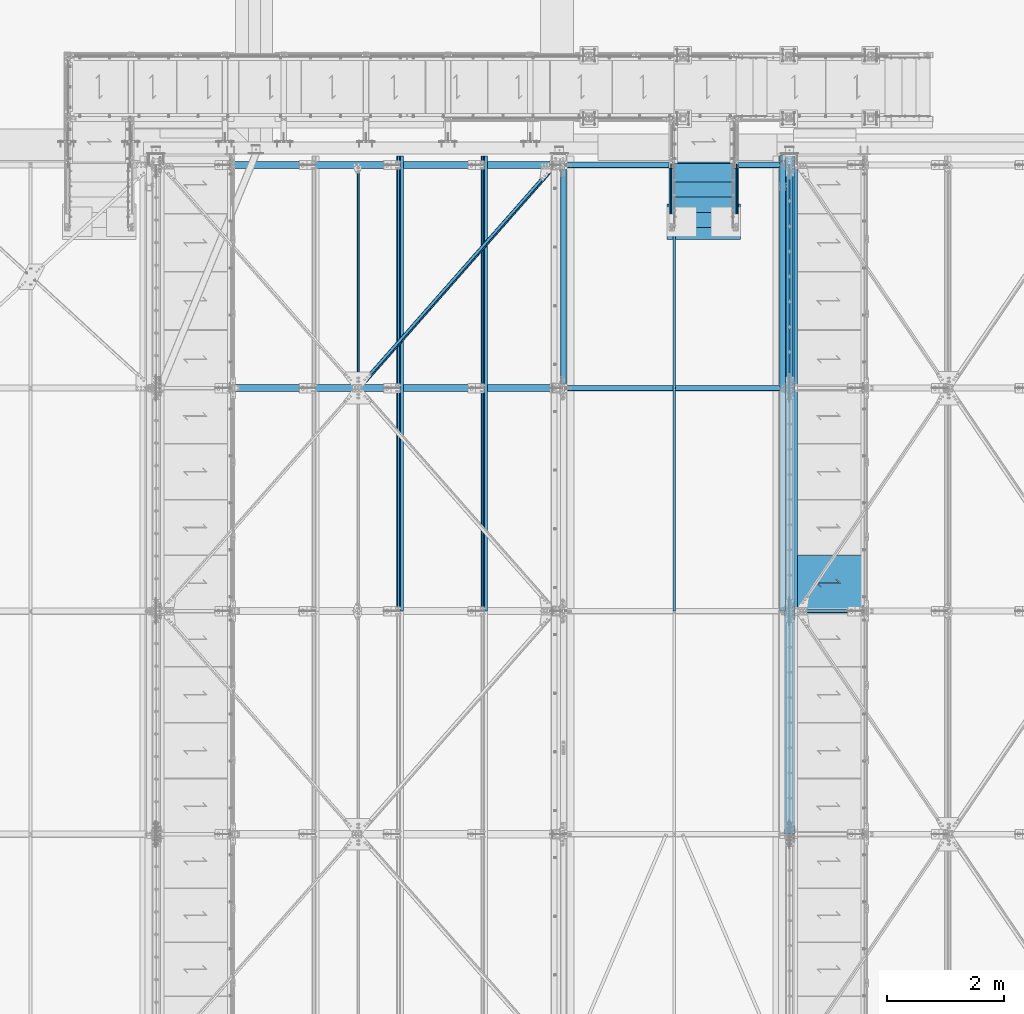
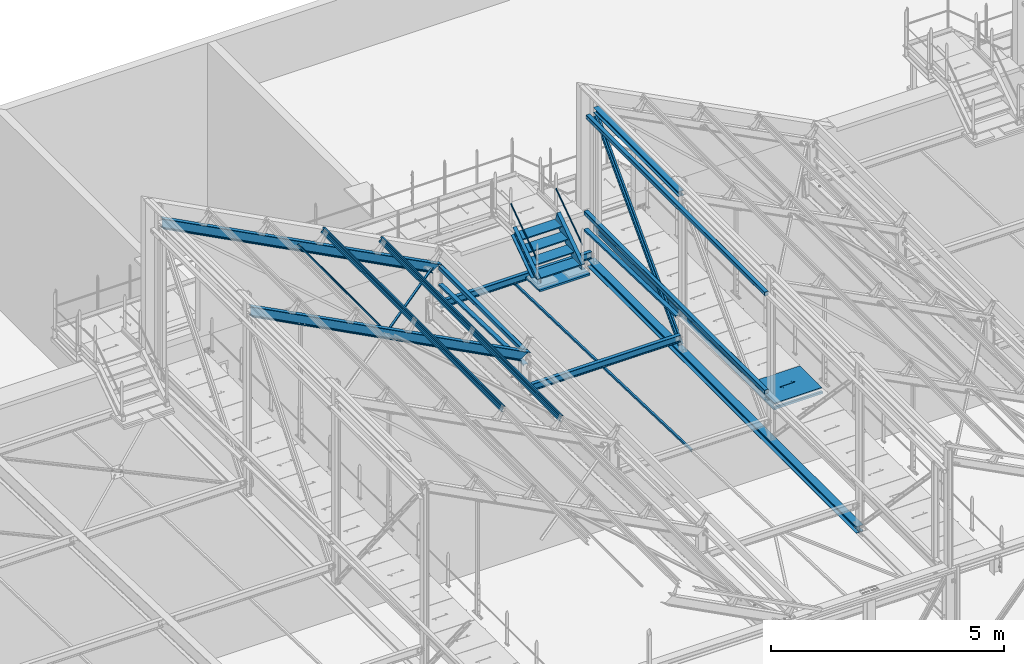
# One storey, part 50 of 362: 22 beams, 8 members, 30 elements without a shape of their own.
"""IFC2X3 building model written with IfcOpenShell, lengths in millimetres."""

import ifcopenshell
import ifcopenshell.guid

model = None  # the IFC model being written
_history = None  # IfcOwnerHistory: only IFC2X3 demands one
_inside = {}  # id of a spatial element -> (the spatial element, [elements in it])
_under = {}  # id of a project, library or spatial element -> (it, [spatial elements below it])
_declared = {}  # id of a project -> (the project, [libraries it declares])
_typed = {}  # id of a type object -> (the type object, [elements of that type])
_made_of = {}  # id of a material, layer set ... -> (it, [elements and type objects made of it])


def new_model(schema):
    """Start an empty IFC model of exactly this schema.

    Asked for "IFC4X3", IfcOpenShell would pick the latest addendum, in which some entities
    have other attributes; the version numbers below select the first issue.
    IFC2X3 requires an IfcOwnerHistory on every rooted entity: one is made here for all.
    """
    global model, _history
    if schema == "IFC4X3":
        model = ifcopenshell.file(schema_version=(4, 3, 0, 0))
    else:
        model = ifcopenshell.file(schema=schema)
    _inside.clear()
    _under.clear()
    _declared.clear()
    _typed.clear()
    _made_of.clear()
    _history = None
    if model.schema == "IFC2X3":
        org = make("IfcOrganization", Name="unknown")
        user = make(
            "IfcPersonAndOrganization",
            ThePerson=make("IfcPerson", FamilyName="unknown"),
            TheOrganization=org,
        )
        app = make(
            "IfcApplication",
            ApplicationDeveloper=org,
            Version="unknown",
            ApplicationFullName="unknown",
            ApplicationIdentifier="unknown",
        )
        _history = make(
            "IfcOwnerHistory",
            OwningUser=user,
            OwningApplication=app,
            ChangeAction="ADDED",
            CreationDate=0,
        )
    return model


def make(cls, **values):
    """One entity of the class cls with the attributes given. An attribute that is None is left unset."""
    return model.create_entity(
        cls, **{name: value for name, value in values.items() if value is not None}
    )


def rooted(cls, **values):
    """An entity with a GlobalId (a new one), such as an element, a storey or a relation."""
    return make(cls, GlobalId=ifcopenshell.guid.new(), OwnerHistory=_history, **values)


def si_unit(unit_type, name, prefix=None):
    """IfcSIUnit, for example si_unit("LENGTHUNIT", "METRE", prefix="MILLI")."""
    return make("IfcSIUnit", UnitType=unit_type, Prefix=prefix, Name=name)


def assignment(units):
    """IfcUnitAssignment: the units of a project."""
    return None if units is None else make("IfcUnitAssignment", Units=units)


def point(xyz):
    """IfcCartesianPoint."""
    return None if xyz is None else make("IfcCartesianPoint", Coordinates=xyz)


def direction(xyz):
    """IfcDirection."""
    return None if xyz is None else make("IfcDirection", DirectionRatios=xyz)


def frame(location, z_axis=None, x_axis=None):
    """IfcAxis2Placement3D, a coordinate frame: its origin and axes. An axis left out is left unset."""
    return make(
        "IfcAxis2Placement3D",
        Location=point(location),
        Axis=direction(z_axis),
        RefDirection=direction(x_axis),
    )


def frame_2d(location, x_axis=None):
    """IfcAxis2Placement2D, a coordinate frame in the plane: its origin and x axis."""
    return make(
        "IfcAxis2Placement2D", Location=point(location), RefDirection=direction(x_axis)
    )


def origin_with_axes():
    """The frame at (0, 0, 0) with the z axis (0, 0, 1) and the x axis (1, 0, 0) written out."""
    return frame((0.0, 0.0, 0.0), z_axis=(0.0, 0.0, 1.0), x_axis=(1.0, 0.0, 0.0))


def origin_2d_with_axis():
    """The frame at (0, 0) in the plane with the x axis (1, 0) written out."""
    return frame_2d((0.0, 0.0), x_axis=(1.0, 0.0))


def place(relative_to, where):
    """IfcLocalPlacement: puts the frame where relative to a parent placement (None: the world)."""
    return make(
        "IfcLocalPlacement", PlacementRelTo=relative_to, RelativePlacement=where
    )


def context(
    kind, dimensions, precision=None, world=None, true_north=None, identifier=None
):
    """IfcGeometricRepresentationContext, for example the 3D "Model" context."""
    return make(
        "IfcGeometricRepresentationContext",
        ContextIdentifier=identifier,
        ContextType=kind,
        CoordinateSpaceDimension=dimensions,
        Precision=precision,
        WorldCoordinateSystem=world,
        TrueNorth=true_north,
    )


def subcontext(parent, identifier, kind, view, scale=None):
    """IfcGeometricRepresentationSubContext, for example "Body" below "Model"."""
    return make(
        "IfcGeometricRepresentationSubContext",
        ContextIdentifier=identifier,
        ContextType=kind,
        ParentContext=parent,
        TargetScale=scale,
        TargetView=view,
    )


def project(units=None, contexts=None):
    """IfcProject with its units and contexts."""
    return rooted(
        "IfcProject",
        Name="project",
        RepresentationContexts=contexts,
        UnitsInContext=assignment(units),
    )


def spatial(cls, under=None, at=None, **own):
    """A site, building, storey or space (cls), placed at a placement, below another one or the project."""
    s = rooted(cls, ObjectPlacement=at, **own)
    if under is not None:
        _under.setdefault(under.id(), (under, []))[1].append(s)
    return s


def polyline(points):
    """IfcPolyline through the points."""
    return make("IfcPolyline", Points=[point(p) for p in points])


def profile(cls, at=None, kind="AREA", **sizes):
    """A parametric profile (cls). Its sizes go by their IFC names, for example OverallWidth=200.0."""
    return make(cls, ProfileType=kind, Position=at, **sizes)


def rectangle(**sizes):
    """IfcRectangleProfileDef."""
    return profile("IfcRectangleProfileDef", **sizes)


def hollow_rectangle(**sizes):
    """IfcRectangleHollowProfileDef."""
    return profile("IfcRectangleHollowProfileDef", **sizes)


def hollow_circle(**sizes):
    """IfcCircleHollowProfileDef."""
    return profile("IfcCircleHollowProfileDef", **sizes)


def i_section(**sizes):
    """IfcIShapeProfileDef."""
    return profile("IfcIShapeProfileDef", **sizes)


def l_section(**sizes):
    """IfcLShapeProfileDef."""
    return profile("IfcLShapeProfileDef", **sizes)


def u_section(**sizes):
    """IfcUShapeProfileDef."""
    return profile("IfcUShapeProfileDef", **sizes)


def outline(outer, holes=None, kind="AREA"):
    """IfcArbitraryClosedProfileDef: a profile drawn as a closed curve; with holes, ...WithVoids."""
    if holes is None:
        return make("IfcArbitraryClosedProfileDef", ProfileType=kind, OuterCurve=outer)
    return make(
        "IfcArbitraryProfileDefWithVoids",
        ProfileType=kind,
        OuterCurve=outer,
        InnerCurves=holes,
    )


def extrude(swept, where, along, depth):
    """IfcExtrudedAreaSolid: the profile swept, set in the frame where, extruded along a direction by depth."""
    return make(
        "IfcExtrudedAreaSolid",
        SweptArea=swept,
        Position=where,
        ExtrudedDirection=direction(along),
        Depth=depth,
    )


def boolean(op, a, b):
    """IfcBooleanResult of two solids."""
    return make("IfcBooleanResult", Operator=op, FirstOperand=a, SecondOperand=b)


def clip(a, b, op="DIFFERENCE"):
    """IfcBooleanClippingResult: the solid a cut by the half space b."""
    return make(
        "IfcBooleanClippingResult", Operator=op, FirstOperand=a, SecondOperand=b
    )


def halfspace(plane, agree):
    """IfcHalfSpaceSolid: all space on one side of the plane z = 0 of the frame plane."""
    return make(
        "IfcHalfSpaceSolid",
        BaseSurface=make("IfcPlane", Position=plane),
        AgreementFlag=agree,
    )


def shape(context_of_items, identifier, shape_type, items):
    """IfcShapeRepresentation: the items that make up one representation, for example the "Body"."""
    return make(
        "IfcShapeRepresentation",
        ContextOfItems=context_of_items,
        RepresentationIdentifier=identifier,
        RepresentationType=shape_type,
        Items=items,
    )


def material(Name=None, Category=None):
    """IfcMaterial."""
    return make("IfcMaterial", Name=Name, Category=Category)


def made_of(thing, what):
    """Note that an element or type object is made of a material, layer set ...; save() writes the relation."""
    if what is not None:
        _made_of.setdefault(what.id(), (what, []))[1].append(thing)
    return thing


def type_object(cls, material=None, **own):
    """A type object (cls), such as IfcWallType, which elements share."""
    return made_of(rooted(cls, **own), material)


def element(
    cls,
    number,
    at=None,
    inside=None,
    cuts=None,
    type_object=None,
    material=None,
    context=None,
    identifier="Body",
    shape_type=None,
    held_by="IfcProductDefinitionShape",
    body=None,
    shapes=None,
    **own,
):
    """One element of the class cls, such as IfcWall. Its Tag is "e" and its number.

    at: its placement. inside: the storey or other place that contains it. cuts: it is an
    opening in that element (IfcRelVoidsElement). A single representation is given by context,
    identifier, shape_type and body (its items); several are given by shapes. held_by: the class
    of the entity that holds the representations. save() writes the other relations.
    """
    e = rooted(cls, Tag="e%d" % number, ObjectPlacement=at, **own)
    if body is not None:
        shapes = [shape(context, identifier, shape_type, body)]
    if shapes is not None:
        e.Representation = make(held_by, Representations=shapes)
    if inside is not None:
        _inside.setdefault(inside.id(), (inside, []))[1].append(e)
    if cuts is not None:
        rooted(
            "IfcRelVoidsElement", RelatingBuildingElement=cuts, RelatedOpeningElement=e
        )
    if type_object is not None:
        _typed.setdefault(type_object.id(), (type_object, []))[1].append(e)
    return made_of(e, material)


def aggregate(whole, parts):
    """IfcRelAggregates: a whole, such as a stair, and the parts it consists of."""
    return rooted("IfcRelAggregates", RelatingObject=whole, RelatedObjects=parts)


def save(model, path):
    """Write the relations noted so far, then the file.

    IfcRelAggregates (storeys below a building ...), IfcRelContainedInSpatialStructure (elements
    in a storey), IfcRelDefinesByType, IfcRelAssociatesMaterial and IfcRelDeclares: one each for
    every whole, place, type object, material and project.
    """
    for whole, parts in _under.values():
        aggregate(whole, parts)
    for where, things in _inside.values():
        rooted(
            "IfcRelContainedInSpatialStructure",
            RelatedElements=things,
            RelatingStructure=where,
        )
    for kind, things in _typed.values():
        rooted("IfcRelDefinesByType", RelatedObjects=things, RelatingType=kind)
    for what, things in _made_of.values():
        rooted("IfcRelAssociatesMaterial", RelatedObjects=things, RelatingMaterial=what)
    for by, libraries in _declared.values():
        rooted("IfcRelDeclares", RelatingContext=by, RelatedDefinitions=libraries)
    model.write(path)


model = new_model("IFC2X3")

# Units and contexts
model_context = context("Model", 3, precision=1e-05, world=origin_with_axes())
body_context = subcontext(model_context, "Body", "Model", "MODEL_VIEW")
ifc_project = project(units=[si_unit("LENGTHUNIT", "METRE", prefix="MILLI"), si_unit("AREAUNIT", "SQUARE_METRE"), si_unit("VOLUMEUNIT", "CUBIC_METRE"), si_unit("MASSUNIT", "GRAM", prefix="KILO"), si_unit("TIMEUNIT", "SECOND"), si_unit("PLANEANGLEUNIT", "RADIAN"), si_unit("SOLIDANGLEUNIT", "STERADIAN"), si_unit("THERMODYNAMICTEMPERATUREUNIT", "DEGREE_CELSIUS"), si_unit("LUMINOUSINTENSITYUNIT", "LUMEN")], contexts=[model_context])

# Site, building, storey
site_placement = place(None, origin_with_axes())
site = spatial("IfcSite", under=ifc_project, at=site_placement, Name="Undefined", CompositionType="ELEMENT")
building_placement = place(site_placement, origin_with_axes())
building = spatial("IfcBuilding", under=site, at=building_placement, Name="Undefined", CompositionType="ELEMENT")
storey_placement = place(building_placement, origin_with_axes())
storey = spatial("IfcBuildingStorey", under=building, at=storey_placement, Name="Undefined", CompositionType="ELEMENT", Elevation=0.0)

# Assembly, member
assembly_1_placement = place(storey_placement, origin_with_axes())
assembly_1 = element("IfcElementAssembly", 1, at=assembly_1_placement, inside=storey, Name="MAIN COURANTE", AssemblyPlace="NOTDEFINED", PredefinedType="NOTDEFINED")
ifc_material_1 = material(Name="Undefined/S235-E24")
member_type_1 = type_object("IfcMemberType", Name="TUBE-21.3*2", PredefinedType="NOTDEFINED")
member_1_placement = place(assembly_1_placement, frame((22569.9936634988, 14144.9998536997, 8651.13839395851), z_axis=(0.999999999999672, -6.66011674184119e-07, -4.61008081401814e-07), x_axis=(0.0, 0.822192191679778, 0.56920997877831)))
member_1 = element("IfcMember", 2, at=member_1_placement, type_object=member_type_1, material=ifc_material_1, Name="LISSE", ObjectType="TUBE-21.3*2", context=body_context, shape_type="Clipping", body=[
    clip(clip(extrude(hollow_circle(Radius=10.64999962, WallThickness=2.0, at=origin_2d_with_axis()), frame((1395.35433691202, -1.13686837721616e-12, 7.38694435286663e-20), z_axis=(-1.0, 0.0, 0.0), x_axis=(0.0, -1.0, 0.0)), (0.0, 0.0, 1.0), 1404.17), halfspace(frame((1387.78549896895, 10.5802584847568, -0.00112410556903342), z_axis=(-0.822192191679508, 0.569209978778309, 6.66011673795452e-07), x_axis=(-0.569209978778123, -0.822192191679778, 4.61008086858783e-07)), True)), halfspace(frame((16.4615054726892, 14.9935154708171, -1.33328576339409e-05), z_axis=(0.822192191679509, -0.569209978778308, -6.66011673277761e-07), x_axis=(0.0, 0.0, -1.0)), True)),
])
aggregate(assembly_1, [member_1])

assembly_2_placement = place(storey_placement, origin_with_axes())
assembly_2 = element("IfcElementAssembly", 3, at=assembly_2_placement, inside=storey, Name="MAIN COURANTE", AssemblyPlace="NOTDEFINED", PredefinedType="NOTDEFINED")
member_2_placement = place(assembly_2_placement, frame((21449.9863365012, 14144.9998536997, 8651.13839395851), z_axis=(-0.999999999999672, -6.66011674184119e-07, -4.61008081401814e-07), x_axis=(0.0, 0.822192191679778, 0.56920997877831)))
member_2 = element("IfcMember", 4, at=member_2_placement, type_object=member_type_1, material=ifc_material_1, Name="LISSE", ObjectType="TUBE-21.3*2", context=body_context, shape_type="Clipping", body=[
    clip(clip(extrude(hollow_circle(Radius=10.64999962, WallThickness=2.0, at=origin_2d_with_axis()), frame((1395.35433691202, -1.13686837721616e-12, 7.38694435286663e-20), z_axis=(-1.0, 0.0, 0.0), x_axis=(0.0, -1.0, 0.0)), (0.0, 0.0, 1.0), 1404.17), halfspace(frame((1387.78549896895, -10.5802584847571, -0.00112410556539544), z_axis=(-0.822192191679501, -0.569209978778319, 6.66011673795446e-07), x_axis=(0.0, 0.0, -1.0)), True)), halfspace(frame((16.4615054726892, -14.9935154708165, -1.33328503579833e-05), z_axis=(0.822192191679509, 0.569209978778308, -6.6601167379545e-07), x_axis=(-0.569209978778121, 0.822192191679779, 4.61008079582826e-07)), True)),
])
aggregate(assembly_2, [member_2])

# Assembly, beam
assembly_3_placement = place(storey_placement, origin_with_axes())
assembly_3 = element("IfcElementAssembly", 5, at=assembly_3_placement, inside=storey, AssemblyPlace="NOTDEFINED", PredefinedType="NOTDEFINED")
beam_type_1 = type_object("IfcBeamType", Name="L50*5", PredefinedType="NOTDEFINED")
beam_1_placement = place(assembly_3_placement, frame((21507.0000126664, 7601.38524277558, 7606.01559960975), z_axis=(1.0, 0.0, 0.0), x_axis=(3.14103090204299e-11, 0.999506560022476, -0.0314107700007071)))
beam_1 = element("IfcBeam", 6, at=beam_1_placement, type_object=beam_type_1, material=ifc_material_1, Name="LIERNE", ObjectType="L50*5", context=body_context, shape_type="SweptSolid", body=[
    extrude(l_section(Depth=50.0, Width=50.0, Thickness=5.0, FilletRadius=7.0, EdgeRadius=3.5, at=origin_2d_with_axis()), frame((7644.25203515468, 5.30426538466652e-14, 0.0), z_axis=(-1.0, 0.0, 0.0), x_axis=(0.0, -1.0, 0.0)), (0.0, 0.0, 1.0), 7644.25),
])
aggregate(assembly_3, [beam_1])

# Assembly, member
assembly_4_placement = place(storey_placement, origin_with_axes())
assembly_4 = element("IfcElementAssembly", 7, at=assembly_4_placement, inside=storey, AssemblyPlace="NOTDEFINED", PredefinedType="NOTDEFINED")
ifc_material_2 = material(Name="Undefined/S275-E28")
member_type_2 = type_object("IfcMemberType", Name="UPN260", PredefinedType="NOTDEFINED")
member_3_placement = place(assembly_4_placement, frame((22554.9957050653, 15220.1081967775, 8803.11488296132), z_axis=(-2.38199999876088e-06, 0.569209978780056, -0.822192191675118), x_axis=(-1.71699999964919e-06, -0.822192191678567, -0.569209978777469)))
member_3 = element("IfcMember", 8, at=member_3_placement, type_object=member_type_2, material=ifc_material_2, Name="LIMON", ObjectType="UPN260", context=body_context, shape_type="Clipping", body=[
    clip(clip(clip(extrude(u_section(Depth=260.0, FlangeWidth=90.0, WebThickness=10.0, FlangeThickness=14.0, FilletRadius=14.0, EdgeRadius=7.0, FlangeSlope=0.0798299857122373, at=origin_2d_with_axis()), frame((1532.05974941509, 3.24426271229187e-19, 1.50656932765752e-12), z_axis=(-1.0, 0.0, 0.0), x_axis=(0.0, -1.0, 0.0)), (0.0, 0.0, 1.0), 1652.65), halfspace(frame((1475.10561376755, -44.9999999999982, -130.0), z_axis=(0.594754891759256, -2.93590080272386e-06, 0.803907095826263), x_axis=(-0.803907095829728, -3.97667463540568e-10, 0.594754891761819)), False)), halfspace(frame((1280.85769771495, 106.407624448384, -129.999853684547), z_axis=(-0.822192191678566, 5.58458236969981e-08, 0.569209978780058), x_axis=(0.569209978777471, -2.93579533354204e-06, 0.822192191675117)), True)), halfspace(frame((81.2187427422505, 545.001446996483, 130.001191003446), z_axis=(0.954513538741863, -9.28664575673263e-07, -0.298167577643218), x_axis=(1.71699999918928e-06, 0.999999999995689, 2.38199999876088e-06)), True)),
])
aggregate(assembly_4, [member_3])

assembly_5_placement = place(storey_placement, origin_with_axes())
assembly_5 = element("IfcElementAssembly", 9, at=assembly_5_placement, inside=storey, AssemblyPlace="NOTDEFINED", PredefinedType="NOTDEFINED")
member_4_placement = place(assembly_5_placement, frame((21465.0064946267, 14166.9970857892, 8074.0379599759), z_axis=(2.38199999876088e-06, 0.569209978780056, -0.822192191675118), x_axis=(-1.7169999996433e-06, 0.822192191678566, 0.56920997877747)))
member_4 = element("IfcMember", 10, at=member_4_placement, type_object=member_type_2, material=ifc_material_2, Name="LIMON", ObjectType="UPN260", context=body_context, shape_type="Clipping", body=[
    clip(clip(clip(extrude(u_section(Depth=260.0, FlangeWidth=90.0, WebThickness=10.0, FlangeThickness=14.0, FilletRadius=14.0, EdgeRadius=7.0, FlangeSlope=0.0798299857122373, at=origin_2d_with_axis()), frame((1401.45085429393, -1.81898940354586e-12, 2.27373675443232e-13), z_axis=(-1.0, 0.0, 0.0), x_axis=(0.0, -1.0, 0.0)), (0.0, 0.0, 1.0), 1652.65), halfspace(frame((-194.248465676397, 44.9999999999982, -130.0), z_axis=(-0.594754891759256, -2.93590079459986e-06, 0.803907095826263), x_axis=(0.803907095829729, -3.97667463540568e-10, 0.594754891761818)), False)), halfspace(frame((1199.63884956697, 544.98906444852, 130.001190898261), z_axis=(-0.954513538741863, -9.28664579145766e-07, -0.298167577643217), x_axis=(1.71700000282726e-06, -0.999999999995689, -2.38199999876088e-06)), True)), halfspace(frame((-0.000105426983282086, 106.407623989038, -129.999853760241), z_axis=(0.822192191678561, 5.58458236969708e-08, 0.569209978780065), x_axis=(1.71700000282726e-06, -0.999999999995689, -2.38199999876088e-06)), True)),
])
aggregate(assembly_5, [member_4])

# Assembly, beam
assembly_6_placement = place(storey_placement, origin_with_axes())
assembly_6 = element("IfcElementAssembly", 11, at=assembly_6_placement, inside=storey, Name="Steel Assembly", AssemblyPlace="NOTDEFINED", PredefinedType="NOTDEFINED")
ifc_material_3 = material(Name="MISCELLANEOUS/POLYURETHANE")
beam_type_2 = type_object("IfcBeamType", Name="PL50*1250", PredefinedType="NOTDEFINED")
beam_2_placement = place(assembly_6_placement, frame((22009.9947340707, 14532.1706378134, 7968.49328384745), z_axis=(-1.0, 0.0, 0.0), x_axis=(0.0, -0.999506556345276, 0.031410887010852)))
beam_2 = element("IfcBeam", 12, at=beam_2_placement, type_object=beam_type_2, material=ifc_material_3, Name="STYRODUR", ObjectType="PL50*1250", context=body_context, shape_type="SweptSolid", body=[
    extrude(rectangle(XDim=50.0, YDim=1250.0, at=origin_2d_with_axis()), frame((600.000000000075, -4.16333634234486e-15, 0.0), z_axis=(-1.0, 0.0, 0.0), x_axis=(0.0, -1.0, 0.0)), (0.0, 0.0, 1.0), 600.0),
])
aggregate(assembly_6, [beam_2])

assembly_7_placement = place(storey_placement, origin_with_axes())
assembly_7 = element("IfcElementAssembly", 13, at=assembly_7_placement, inside=storey, Name="MARCHE", AssemblyPlace="NOTDEFINED", PredefinedType="NOTDEFINED")
beam_type_3 = type_object("IfcBeamType", Name="PL30*994", PredefinedType="NOTDEFINED")
beam_3_placement = place(assembly_7_placement, frame((22009.9938089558, 14444.9997910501, 8145.0000000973), z_axis=(-1.0, 0.0, 0.0), x_axis=(0.0, -1.0, 0.0)))
beam_3 = element("IfcBeam", 14, at=beam_3_placement, type_object=beam_type_3, material=ifc_material_1, Name="MARCHE", ObjectType="PL30*994", context=body_context, shape_type="SweptSolid", body=[
    extrude(rectangle(XDim=30.0, YDim=994.0, at=origin_2d_with_axis()), frame((310.0, 0.0, 0.0), z_axis=(-1.0, 0.0, 0.0), x_axis=(0.0, -1.0, 0.0)), (0.0, 0.0, 1.0), 310.0),
])
aggregate(assembly_7, [beam_3])

assembly_8_placement = place(storey_placement, origin_with_axes())
assembly_8 = element("IfcElementAssembly", 15, at=assembly_8_placement, inside=storey, Name="MARCHE", AssemblyPlace="NOTDEFINED", PredefinedType="NOTDEFINED")
beam_4_placement = place(assembly_8_placement, frame((22009.9938089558, 14704.9997910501, 8325.00000007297), z_axis=(-1.0, 0.0, 0.0), x_axis=(0.0, -1.0, 0.0)))
beam_4 = element("IfcBeam", 16, at=beam_4_placement, type_object=beam_type_3, material=ifc_material_1, Name="MARCHE", ObjectType="PL30*994", context=body_context, shape_type="SweptSolid", body=[
    extrude(rectangle(XDim=30.0, YDim=994.0, at=origin_2d_with_axis()), frame((310.0, 0.0, 0.0), z_axis=(-1.0, 0.0, 0.0), x_axis=(0.0, -1.0, 0.0)), (0.0, 0.0, 1.0), 310.0),
])
aggregate(assembly_8, [beam_4])

assembly_9_placement = place(storey_placement, origin_with_axes())
assembly_9 = element("IfcElementAssembly", 17, at=assembly_9_placement, inside=storey, Name="MARCHE", AssemblyPlace="NOTDEFINED", PredefinedType="NOTDEFINED")
beam_5_placement = place(assembly_9_placement, frame((22009.9938089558, 14964.9997910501, 8505.00000004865), z_axis=(-1.0, 0.0, 0.0), x_axis=(0.0, -1.0, 0.0)))
beam_5 = element("IfcBeam", 18, at=beam_5_placement, type_object=beam_type_3, material=ifc_material_1, Name="MARCHE", ObjectType="PL30*994", context=body_context, shape_type="SweptSolid", body=[
    extrude(rectangle(XDim=30.0, YDim=994.0, at=origin_2d_with_axis()), frame((310.0, 0.0, 0.0), z_axis=(-1.0, 0.0, 0.0), x_axis=(0.0, -1.0, 0.0)), (0.0, 0.0, 1.0), 310.0),
])
aggregate(assembly_9, [beam_5])

assembly_10_placement = place(storey_placement, origin_with_axes())
assembly_10 = element("IfcElementAssembly", 19, at=assembly_10_placement, inside=storey, Name="MARCHE", AssemblyPlace="NOTDEFINED", PredefinedType="NOTDEFINED")
beam_6_placement = place(assembly_10_placement, frame((22009.9938089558, 15224.9997910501, 8685.0), z_axis=(-1.0, 0.0, 0.0), x_axis=(0.0, -1.0, 0.0)))
beam_6 = element("IfcBeam", 20, at=beam_6_placement, type_object=beam_type_3, material=ifc_material_1, Name="MARCHE", ObjectType="PL30*994", context=body_context, shape_type="SweptSolid", body=[
    extrude(rectangle(XDim=30.0, YDim=994.0, at=origin_2d_with_axis()), frame((310.0, 0.0, 0.0), z_axis=(-1.0, 0.0, 0.0), x_axis=(0.0, -1.0, 0.0)), (0.0, 0.0, 1.0), 310.0),
])
aggregate(assembly_10, [beam_6])

assembly_11_placement = place(storey_placement, origin_with_axes())
assembly_11 = element("IfcElementAssembly", 21, at=assembly_11_placement, inside=storey, AssemblyPlace="NOTDEFINED", PredefinedType="NOTDEFINED")
beam_type_4 = type_object("IfcBeamType", Name="L60*6", PredefinedType="NOTDEFINED")
beam_7_placement = place(assembly_11_placement, frame((16130.7913108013, 11397.8852377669, 10299.8650291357), z_axis=(-0.628485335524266, 0.704921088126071, 0.328774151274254), x_axis=(0.624617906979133, 0.7092857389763, -0.326750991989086)))
beam_7 = element("IfcBeam", 22, at=beam_7_placement, type_object=beam_type_4, material=ifc_material_1, Name="STABILITE CVT", ObjectType="L60*6", context=body_context, shape_type="Clipping", body=[
    clip(clip(extrude(l_section(Depth=60.0, Width=60.0, Thickness=6.0, FilletRadius=8.0, EdgeRadius=4.0, at=origin_2d_with_axis()), frame((5278.55482785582, 0.0, -3.15847707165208e-13), z_axis=(-1.0, 0.0, 0.0), x_axis=(0.0, -1.0, 0.0)), (0.0, 0.0, 1.0), 5199.61), halfspace(frame((5188.72425075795, 30.0000249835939, 30.0000008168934), z_axis=(-1.0, 0.0, 0.0), x_axis=(0.0, -1.0, 0.0)), True)), halfspace(frame((168.778198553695, 30.0000021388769, -29.999999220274), z_axis=(1.0, 0.0, 0.0), x_axis=(0.0, -1.0, 0.0)), True)),
])
aggregate(assembly_11, [beam_7])

assembly_12_placement = place(storey_placement, origin_with_axes())
assembly_12 = element("IfcElementAssembly", 23, at=assembly_12_placement, inside=storey, Name="LISSE", AssemblyPlace="NOTDEFINED", PredefinedType="NOTDEFINED")
beam_type_5 = type_object("IfcBeamType", Name="UPF-100*50*4", PredefinedType="NOTDEFINED")
beam_8_placement = place(assembly_12_placement, frame((23353.5001162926, 11402.9585391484, 8171.89575101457), z_axis=(1.0, 0.0, 0.0), x_axis=(0.0, 0.99950644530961, -0.0314144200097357)))
beam_8 = element("IfcBeam", 24, at=beam_8_placement, type_object=beam_type_5, material=ifc_material_1, Name="LISSE CONTREBARDAGE", ObjectType="UPF-100*50*4", context=body_context, shape_type="Clipping", body=[
    clip(extrude(u_section(Depth=100.0, FlangeWidth=50.0, WebThickness=4.0, FlangeThickness=4.0, at=origin_2d_with_axis()), frame((3989.01014791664, 0.0, 0.0), z_axis=(-1.0, 0.0, 0.0), x_axis=(0.0, -1.0, 0.0)), (0.0, 0.0, 1.0), 3989.01), halfspace(frame((3959.78106204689, -24.99999999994, -50.0), z_axis=(0.999506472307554, 0.0314135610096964, 0.0), x_axis=(0.0, 0.0, 1.0)), False)),
])
aggregate(assembly_12, [beam_8])

assembly_13_placement = place(storey_placement, origin_with_axes())
assembly_13 = element("IfcElementAssembly", 25, at=assembly_13_placement, inside=storey, Name="LISSE", AssemblyPlace="NOTDEFINED", PredefinedType="NOTDEFINED")
beam_9_placement = place(assembly_13_placement, frame((19620.0000000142, 11400.0, 8171.98873515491), z_axis=(1.0, 0.0, 0.0), x_axis=(0.0, 0.99950644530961, -0.0314144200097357)))
beam_9 = element("IfcBeam", 26, at=beam_9_placement, type_object=beam_type_5, material=ifc_material_1, Name="LISSE CONTREBARDAGE", ObjectType="UPF-100*50*4", context=body_context, shape_type="Clipping", body=[
    clip(clip(extrude(u_section(Depth=100.0, FlangeWidth=50.0, WebThickness=4.0, FlangeThickness=4.0, at=origin_2d_with_axis()), frame((3738.43140425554, 0.0, 0.0), z_axis=(-1.0, 0.0, 0.0), x_axis=(0.0, -1.0, 0.0)), (0.0, 0.0, 1.0), 3674.99), halfspace(frame((3734.02168286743, 89.8070816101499, 49.9999999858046), z_axis=(-0.999506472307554, -0.0314135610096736, 0.0), x_axis=(0.0, 0.0, 1.0)), True)), halfspace(frame((63.1144992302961, 61.0134432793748, 49.9999999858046), z_axis=(-0.999506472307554, -0.0314135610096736, 0.0), x_axis=(0.0, 0.0, 1.0)), False)),
])
aggregate(assembly_13, [beam_9])

assembly_14_placement = place(storey_placement, origin_with_axes())
assembly_14 = element("IfcElementAssembly", 27, at=assembly_14_placement, inside=storey, Name="LISSE", AssemblyPlace="NOTDEFINED", PredefinedType="NOTDEFINED")
beam_type_6 = type_object("IfcBeamType", Name="TUBE-C-100*100*4", PredefinedType="NOTDEFINED")
beam_10_placement = place(assembly_14_placement, frame((23353.5000011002, 7604.99999901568, 11069.999999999), z_axis=(0.0, 0.0, -1.0), x_axis=(0.0, 1.0, 0.0)))
beam_10 = element("IfcBeam", 28, at=beam_10_placement, type_object=beam_type_6, material=ifc_material_1, Name="LISSE ACROTERE", ObjectType="TUBE-C-100*100*4", context=body_context, shape_type="SweptSolid", body=[
    extrude(hollow_rectangle(XDim=100.0, YDim=100.0, WallThickness=4.0, InnerFilletRadius=4.0, OuterFilletRadius=8.0, at=origin_2d_with_axis()), frame((7664.99999999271, 0.0, 0.0), z_axis=(-1.0, 0.0, 0.0), x_axis=(0.0, -1.0, 0.0)), (0.0, 0.0, 1.0), 7665.0),
])
aggregate(assembly_14, [beam_10])

assembly_15_placement = place(storey_placement, origin_with_axes())
assembly_15 = element("IfcElementAssembly", 29, at=assembly_15_placement, inside=storey, Name="LISSE", AssemblyPlace="NOTDEFINED", PredefinedType="NOTDEFINED")
beam_11_placement = place(assembly_15_placement, frame((23353.5, 7605.0, 8500.0), z_axis=(0.0, 0.0, 1.0), x_axis=(0.0, 1.0, 0.0)))
beam_11 = element("IfcBeam", 30, at=beam_11_placement, type_object=beam_type_6, material=ifc_material_1, Name="LISSE ACROTERE", ObjectType="TUBE-C-100*100*4", context=body_context, shape_type="SweptSolid", body=[
    extrude(hollow_rectangle(XDim=100.0, YDim=100.0, WallThickness=4.0, InnerFilletRadius=4.0, OuterFilletRadius=8.0, at=origin_2d_with_axis()), frame((7755.0, 0.0, 0.0), z_axis=(-1.0, 0.0, 0.0), x_axis=(0.0, -1.0, 0.0)), (0.0, 0.0, 1.0), 7755.0),
])
aggregate(assembly_15, [beam_11])

assembly_16_placement = place(storey_placement, origin_with_axes())
assembly_16 = element("IfcElementAssembly", 31, at=assembly_16_placement, inside=storey, Name="LISSE", AssemblyPlace="NOTDEFINED", PredefinedType="NOTDEFINED")
beam_12_placement = place(assembly_16_placement, frame((19619.9999999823, 11470.0, 8500.0), z_axis=(0.0, 0.0, 1.0), x_axis=(0.0, 1.0, 0.0)))
beam_12 = element("IfcBeam", 32, at=beam_12_placement, type_object=beam_type_6, material=ifc_material_1, Name="LISSE ACROTERE", ObjectType="TUBE-C-100*100*4", context=body_context, shape_type="SweptSolid", body=[
    extrude(hollow_rectangle(XDim=100.0, YDim=100.0, WallThickness=4.0, InnerFilletRadius=4.0, OuterFilletRadius=8.0, at=origin_2d_with_axis()), frame((3660.0, 0.0, 0.0), z_axis=(-1.0, 0.0, 0.0), x_axis=(0.0, -1.0, 0.0)), (0.0, 0.0, 1.0), 3660.0),
])
aggregate(assembly_16, [beam_12])

assembly_17_placement = place(storey_placement, origin_with_axes())
assembly_17 = element("IfcElementAssembly", 33, at=assembly_17_placement, inside=storey, AssemblyPlace="NOTDEFINED", PredefinedType="NOTDEFINED")
beam_type_7 = type_object("IfcBeamType", Name="TOLE30*940", PredefinedType="NOTDEFINED")
beam_13_placement = place(assembly_17_placement, frame((24726.4915934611, 8545.00015707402, 8115.0), z_axis=(0.0, 0.0, 1.0), x_axis=(-1.0, 0.0, 0.0)))
beam_13 = element("IfcBeam", 34, at=beam_13_placement, type_object=beam_type_7, material=ifc_material_1, Name="CAILLEBOTIS", ObjectType="TOLE30*940", context=body_context, shape_type="CSG", body=[
    boolean("DIFFERENCE", extrude(outline(polyline([(0.0, 0.0), (1179.99169921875, 0.0), (1179.99169921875, 940.0), (-9.39995516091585e-07, 940.0), (0.0, 0.0)])), frame((0.0, 0.0, -15.0), z_axis=(0.0, 0.0, 1.0), x_axis=(1.0, 0.0, 0.0)), (0.0, 0.0, 1.0), 30.0), extrude(outline(polyline([(0.0, 0.0), (9.99999999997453, 6.91215973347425e-11), (10.0000000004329, 75.8578643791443), (282.842712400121, -196.984848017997), (282.842712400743, -96.9848480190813), (272.842712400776, -96.9848480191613), (272.842712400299, -172.842712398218), (0.0, 100.0), (0.0, 0.0)])), frame((724.286946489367, 535.710676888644, -17.5), z_axis=(0.0, 0.0, 1.0), x_axis=(-0.707106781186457, -0.707106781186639, 0.0)), (0.0, 0.0, 1.0), 35.0)),
])
aggregate(assembly_17, [beam_13])

assembly_18_placement = place(storey_placement, origin_with_axes())
assembly_18 = element("IfcElementAssembly", 35, at=assembly_18_placement, inside=storey, AssemblyPlace="NOTDEFINED", PredefinedType="NOTDEFINED")
beam_type_8 = type_object("IfcBeamType", Name="TUBE-C-40*40*4", PredefinedType="NOTDEFINED")
beam_14_placement = place(assembly_18_placement, frame((16124.2705701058, 15180.000000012, 10291.9905299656), z_axis=(-0.886082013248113, 9.38091927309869e-07, 0.463528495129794), x_axis=(-8.13000000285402e-07, -0.999999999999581, 4.20999999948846e-07)))
beam_14 = element("IfcBeam", 36, at=beam_14_placement, type_object=beam_type_8, material=ifc_material_1, Name="BUTON", ObjectType="TUBE-C-40*40*4", context=body_context, shape_type="SweptSolid", body=[
    extrude(hollow_rectangle(XDim=40.0, YDim=40.0, WallThickness=4.0, InnerFilletRadius=4.0, OuterFilletRadius=8.0, at=origin_2d_with_axis()), frame((3700.00150276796, -3.63797900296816e-12, -3.9175289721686e-19), z_axis=(-1.0, 0.0, 0.0), x_axis=(0.0, -1.0, 0.0)), (0.0, 0.0, 1.0), 3700.0),
])
aggregate(assembly_18, [beam_14])

assembly_19_placement = place(storey_placement, origin_with_axes())
assembly_19 = element("IfcElementAssembly", 37, at=assembly_19_placement, inside=storey, AssemblyPlace="NOTDEFINED", PredefinedType="NOTDEFINED")
beam_type_9 = type_object("IfcBeamType", Name="HEA140", PredefinedType="NOTDEFINED")
beam_15_placement = place(assembly_19_placement, frame((23473.5, 15125.0, 11302.5), z_axis=(0.0, 0.0, 1.0), x_axis=(0.0, -1.0, 0.0)))
beam_15 = element("IfcBeam", 38, at=beam_15_placement, type_object=beam_type_9, material=ifc_material_2, Name="LONGERON", ObjectType="HEA140", context=body_context, shape_type="SweptSolid", body=[
    extrude(i_section(OverallWidth=140.0, OverallDepth=133.0, WebThickness=5.5, FlangeThickness=8.5, FilletRadius=12.0, at=origin_2d_with_axis()), frame((3650.0, 0.0, 0.0), z_axis=(-1.0, 0.0, 0.0), x_axis=(0.0, -1.0, 0.0)), (0.0, 0.0, 1.0), 3650.0),
])
aggregate(assembly_19, [beam_15])

assembly_20_placement = place(storey_placement, origin_with_axes())
assembly_20 = element("IfcElementAssembly", 39, at=assembly_20_placement, inside=storey, AssemblyPlace="NOTDEFINED", PredefinedType="NOTDEFINED")
beam_type_10 = type_object("IfcBeamType", Name="HEA180", PredefinedType="NOTDEFINED")
beam_16_placement = place(assembly_20_placement, frame((23470.0, 15350.0000000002, 7164.50000000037), z_axis=(0.0, 0.0, 1.0), x_axis=(0.0, -1.0, 0.0)))
beam_16 = element("IfcBeam", 40, at=beam_16_placement, type_object=beam_type_10, material=ifc_material_2, Name="LONGERON", ObjectType="HEA180", context=body_context, shape_type="SweptSolid", body=[
    extrude(i_section(OverallWidth=180.0, OverallDepth=171.0, WebThickness=6.0, FlangeThickness=9.5, FilletRadius=15.0, at=origin_2d_with_axis()), frame((11545.0000000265, 0.0, 0.0), z_axis=(-1.0, 0.0, 0.0), x_axis=(0.0, -1.0, 0.0)), (0.0, 0.0, 1.0), 11545.0),
])
aggregate(assembly_20, [beam_16])

assembly_21_placement = place(storey_placement, origin_with_axes())
assembly_21 = element("IfcElementAssembly", 41, at=assembly_21_placement, inside=storey, AssemblyPlace="NOTDEFINED", PredefinedType="NOTDEFINED")
beam_type_11 = type_object("IfcBeamType", Name="UPF-150*70*5", PredefinedType="NOTDEFINED")
beam_17_placement = place(assembly_21_placement, frame((23571.499943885, 7605.00000239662, 8025.0), z_axis=(0.0, 0.0, 1.0), x_axis=(0.0, 1.0, 0.0)))
beam_17 = element("IfcBeam", 42, at=beam_17_placement, type_object=beam_type_11, material=ifc_material_1, Name="LONGERON", ObjectType="UPF-150*70*5", context=body_context, shape_type="SweptSolid", body=[
    extrude(u_section(Depth=150.0, FlangeWidth=70.0, WebThickness=5.0, FlangeThickness=5.0, at=origin_2d_with_axis()), frame((7755.0000786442, 0.0, 0.0), z_axis=(-1.0, 0.0, 0.0), x_axis=(0.0, -1.0, 0.0)), (0.0, 0.0, 1.0), 7755.0),
])
aggregate(assembly_21, [beam_17])

assembly_22_placement = place(storey_placement, origin_with_axes())
assembly_22 = element("IfcElementAssembly", 43, at=assembly_22_placement, inside=storey, Name="PANNE SHED", AssemblyPlace="NOTDEFINED", PredefinedType="NOTDEFINED")
beam_type_12 = type_object("IfcBeamType", Name="B140/150", PredefinedType="NOTDEFINED")
beam_18_placement = place(assembly_22_placement, frame((16833.5855150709, 7605.00007961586, 10327.2156401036), z_axis=(0.463528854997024, 6.99999093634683e-09, 0.886081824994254), x_axis=(0.0, 1.0, 0.0)))
beam_18 = element("IfcBeam", 44, at=beam_18_placement, type_object=beam_type_12, material=ifc_material_1, Name="PANNE SHED", ObjectType="B140/150", context=body_context, shape_type="SweptSolid", body=[
    extrude(outline(polyline([(-27.9999999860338, 36.0000000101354), (-27.999999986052, 70.0000000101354), (28.0000000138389, 70.0000000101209), (28.0000000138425, 58.0000000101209), (26.5000000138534, 58.0000000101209), (26.5000000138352, 68.5000000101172), (-26.4999999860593, 68.5000000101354), (-26.4999999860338, 36.7000007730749), (-1.49999998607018, 15.6999998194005), (-1.49999998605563, -15.6999997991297), (-26.4999999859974, -36.7000007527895), (-26.4999999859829, -68.49999998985), (26.5000000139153, -68.4999999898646), (26.500000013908, -57.9999999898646), (28.0000000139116, -57.9999999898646), (28.0000000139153, -69.9999999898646), (-27.9999999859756, -69.99999998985), (-27.9999999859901, -35.99999998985), (-2.99999998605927, -14.9999999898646), (-2.9999999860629, 15.0000000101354), (-27.9999999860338, 36.0000000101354)])), frame((7750.00000000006, -3.63797880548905e-12, 0.0), z_axis=(-1.0, 0.0, 0.0), x_axis=(0.0, -1.0, 0.0)), (0.0, 0.0, 1.0), 7750.0),
])
aggregate(assembly_22, [beam_18])

assembly_23_placement = place(storey_placement, origin_with_axes())
assembly_23 = element("IfcElementAssembly", 45, at=assembly_23_placement, inside=storey, Name="PANNE SHED", AssemblyPlace="NOTDEFINED", PredefinedType="NOTDEFINED")
beam_19_placement = place(assembly_23_placement, frame((18270.8856638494, 7605.00007961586, 9575.33349769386), z_axis=(0.463528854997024, 6.99999093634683e-09, 0.886081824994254), x_axis=(0.0, 1.0, 0.0)))
beam_19 = element("IfcBeam", 46, at=beam_19_placement, type_object=beam_type_12, material=ifc_material_1, Name="PANNE SHED", ObjectType="B140/150", context=body_context, shape_type="SweptSolid", body=[
    extrude(outline(polyline([(-27.9999999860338, 36.0000000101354), (-27.999999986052, 70.0000000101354), (28.0000000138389, 70.0000000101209), (28.0000000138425, 58.0000000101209), (26.5000000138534, 58.0000000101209), (26.5000000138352, 68.5000000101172), (-26.4999999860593, 68.5000000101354), (-26.4999999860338, 36.7000007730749), (-1.49999998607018, 15.6999998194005), (-1.49999998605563, -15.6999997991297), (-26.4999999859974, -36.7000007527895), (-26.4999999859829, -68.49999998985), (26.5000000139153, -68.4999999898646), (26.500000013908, -57.9999999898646), (28.0000000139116, -57.9999999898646), (28.0000000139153, -69.9999999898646), (-27.9999999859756, -69.99999998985), (-27.9999999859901, -35.99999998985), (-2.99999998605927, -14.9999999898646), (-2.9999999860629, 15.0000000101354), (-27.9999999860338, 36.0000000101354)])), frame((7750.00000000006, -3.63797880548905e-12, 0.0), z_axis=(-1.0, 0.0, 0.0), x_axis=(0.0, -1.0, 0.0)), (0.0, 0.0, 1.0), 7750.0),
])
aggregate(assembly_23, [beam_19])

# Assembly, member
assembly_24_placement = place(storey_placement, origin_with_axes())
assembly_24 = element("IfcElementAssembly", 47, at=assembly_24_placement, inside=storey, AssemblyPlace="NOTDEFINED", PredefinedType="NOTDEFINED")
member_type_3 = type_object("IfcMemberType", Name="UPN80", PredefinedType="NOTDEFINED")
member_5_placement = place(assembly_24_placement, frame((23497.5000000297, 11400.0000000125, 7249.99999999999), z_axis=(0.0, -0.723792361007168, 0.69001783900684), x_axis=(0.0, 0.690017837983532, 0.723792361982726)))
member_5 = element("IfcMember", 48, at=member_5_placement, type_object=member_type_3, material=ifc_material_2, Name="DIAGONALE", ObjectType="UPN80", context=body_context, shape_type="Clipping", body=[
    clip(clip(extrude(u_section(Depth=80.0, FlangeWidth=45.0, WebThickness=6.0, FlangeThickness=8.0, FilletRadius=8.0, EdgeRadius=4.0, FlangeSlope=0.0798299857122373, at=origin_2d_with_axis()), frame((5467.81196900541, 0.0, 0.0), z_axis=(-1.0, 0.0, 0.0), x_axis=(0.0, -1.0, 0.0)), (0.0, 0.0, 1.0), 5428.52), halfspace(frame((5387.10413923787, 27.5000000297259, 39.9999976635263), z_axis=(1.0, 0.0, 0.0), x_axis=(0.0, 1.0, 0.0)), False)), halfspace(frame((119.999999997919, 27.49999999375, -39.9999989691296), z_axis=(-1.0, 0.0, 0.0), x_axis=(0.0, 1.0, 0.0)), False)),
])
aggregate(assembly_24, [member_5])

assembly_25_placement = place(storey_placement, origin_with_axes())
assembly_25 = element("IfcElementAssembly", 49, at=assembly_25_placement, inside=storey, AssemblyPlace="NOTDEFINED", PredefinedType="NOTDEFINED")
member_6_placement = place(assembly_25_placement, frame((23442.5000000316, 15200.0000003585, 11235.9999997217), z_axis=(0.0, -0.723792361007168, 0.69001783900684), x_axis=(0.0, -0.69001783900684, -0.723792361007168)))
member_6 = element("IfcMember", 50, at=member_6_placement, type_object=member_type_3, material=ifc_material_2, Name="DIAGONALE", ObjectType="UPN80", context=body_context, shape_type="Clipping", body=[
    clip(clip(extrude(u_section(Depth=80.0, FlangeWidth=45.0, WebThickness=6.0, FlangeThickness=8.0, FilletRadius=8.0, EdgeRadius=4.0, FlangeSlope=0.0798299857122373, at=origin_2d_with_axis()), frame((5467.81196900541, 0.0, 0.0), z_axis=(-1.0, 0.0, 0.0), x_axis=(0.0, -1.0, 0.0)), (0.0, 0.0, 1.0), 5428.52), halfspace(frame((5387.10413924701, 27.4999999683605, -40.0000000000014), z_axis=(1.0, 0.0, 0.0), x_axis=(0.0, -1.0, 0.0)), False)), halfspace(frame((119.999999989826, 27.5000000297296, 39.9999985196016), z_axis=(-1.0, 0.0, 0.0), x_axis=(0.0, -1.0, 0.0)), False)),
])
aggregate(assembly_25, [member_6])

# Assembly, beam
assembly_26_placement = place(storey_placement, origin_with_axes())
assembly_26 = element("IfcElementAssembly", 51, at=assembly_26_placement, inside=storey, AssemblyPlace="NOTDEFINED", PredefinedType="NOTDEFINED")
beam_type_13 = type_object("IfcBeamType", Name="TUBE-C-60*60*3", PredefinedType="NOTDEFINED")
beam_20_placement = place(assembly_26_placement, frame((23547.9918295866, 7600.0, 8015.0), z_axis=(0.0, -1.0, 0.0), x_axis=(1.0, 0.0, 0.0)))
beam_20 = element("IfcBeam", 52, at=beam_20_placement, type_object=beam_type_13, material=ifc_material_1, Name="SOLIVE", ObjectType="TUBE-C-60*60*3", context=body_context, shape_type="SweptSolid", body=[
    extrude(hollow_rectangle(XDim=60.0, YDim=60.0, WallThickness=3.0, InnerFilletRadius=3.0, OuterFilletRadius=6.0, at=origin_2d_with_axis()), frame((1181.99977105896, 0.0, 0.0), z_axis=(-1.0, 0.0, 0.0), x_axis=(0.0, -1.0, 0.0)), (0.0, 0.0, 1.0), 1182.0),
])
aggregate(assembly_26, [beam_20])

# Assembly, member
assembly_27_placement = place(storey_placement, origin_with_axes())
assembly_27 = element("IfcElementAssembly", 53, at=assembly_27_placement, inside=storey, Name="TRAVERSE SHED", AssemblyPlace="NOTDEFINED", PredefinedType="NOTDEFINED")
member_type_4 = type_object("IfcMemberType", Name="IPE240", PredefinedType="NOTDEFINED")
member_7_placement = place(assembly_27_placement, frame((12694.3765846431, 15199.9999999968, 12063.6701562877), z_axis=(0.463528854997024, 6.99999093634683e-09, 0.886081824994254), x_axis=(0.886081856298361, 3.500000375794e-08, -0.463528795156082)))
member_7 = element("IfcMember", 54, at=member_7_placement, type_object=member_type_4, material=ifc_material_2, Name="TRAVERSE SHED", ObjectType="IPE240", context=body_context, shape_type="Clipping", body=[
    clip(clip(extrude(i_section(OverallWidth=120.0, OverallDepth=240.0, WebThickness=6.199999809, FlangeThickness=9.800000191, FilletRadius=15.0, at=origin_2d_with_axis()), frame((7941.81660004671, -4.54747350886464e-13, 4.40859382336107e-13), z_axis=(-1.0, 0.0, 0.0), x_axis=(0.0, -1.0, 0.0)), (0.0, 0.0, 1.0), 8076.52), halfspace(frame((7809.66068490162, -11399.9999999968, 119.999998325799), z_axis=(-0.855432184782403, 0.0, 0.51791483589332), x_axis=(0.0, -1.0, 0.0)), True)), halfspace(frame((5.75953323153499, 3.18157252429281e-09, 123.012934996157), z_axis=(-0.886082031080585, 0.0, -0.463528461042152), x_axis=(0.0, -1.0, 0.0)), False)),
])
aggregate(assembly_27, [member_7])

assembly_28_placement = place(storey_placement, origin_with_axes())
assembly_28 = element("IfcElementAssembly", 55, at=assembly_28_placement, inside=storey, Name="TRAVERSE SHED", AssemblyPlace="NOTDEFINED", PredefinedType="NOTDEFINED")
member_8_placement = place(assembly_28_placement, frame((12694.3765846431, 11399.9999999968, 12063.6701562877), z_axis=(0.463528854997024, 6.99999093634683e-09, 0.886081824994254), x_axis=(0.886081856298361, 3.500000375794e-08, -0.463528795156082)))
member_8 = element("IfcMember", 56, at=member_8_placement, type_object=member_type_4, material=ifc_material_2, Name="TRAVERSE SHED", ObjectType="IPE240", context=body_context, shape_type="Clipping", body=[
    clip(clip(extrude(i_section(OverallWidth=120.0, OverallDepth=240.0, WebThickness=6.199999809, FlangeThickness=9.800000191, FilletRadius=15.0, at=origin_2d_with_axis()), frame((7941.81660004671, -4.54747350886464e-13, 4.40859382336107e-13), z_axis=(-1.0, 0.0, 0.0), x_axis=(0.0, -1.0, 0.0)), (0.0, 0.0, 1.0), 8076.52), halfspace(frame((7809.66068490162, -7599.99999999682, 119.999998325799), z_axis=(-0.855432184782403, 0.0, 0.51791483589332), x_axis=(0.0, -1.0, 0.0)), True)), halfspace(frame((5.75953323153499, 3.18157252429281e-09, 123.012934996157), z_axis=(-0.886082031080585, 0.0, -0.463528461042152), x_axis=(0.0, -1.0, 0.0)), False)),
])
aggregate(assembly_28, [member_8])

# Assembly, beam
assembly_29_placement = place(storey_placement, origin_with_axes())
assembly_29 = element("IfcElementAssembly", 57, at=assembly_29_placement, inside=storey, AssemblyPlace="NOTDEFINED", PredefinedType="NOTDEFINED")
beam_type_14 = type_object("IfcBeamType", Name="IPE180", PredefinedType="NOTDEFINED")
beam_21_placement = place(assembly_29_placement, frame((19659.9999991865, 15199.9999999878, 7482.27624345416), z_axis=(7.58071938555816e-11, 0.0314107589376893, 0.999506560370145), x_axis=(1.0, 0.0, 0.0)))
beam_21 = element("IfcBeam", 58, at=beam_21_placement, type_object=beam_type_14, material=ifc_material_2, Name="PANNE", ObjectType="IPE180", context=body_context, shape_type="SweptSolid", body=[
    extrude(i_section(OverallWidth=91.0, OverallDepth=180.0, WebThickness=5.300000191, FlangeThickness=8.0, FilletRadius=9.0, at=origin_2d_with_axis()), frame((3733.49999999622, 0.0, 0.0), z_axis=(-1.0, 0.0, 0.0), x_axis=(0.0, -1.0, 0.0)), (0.0, 0.0, 1.0), 3733.5),
])
aggregate(assembly_29, [beam_21])

assembly_30_placement = place(storey_placement, origin_with_axes())
assembly_30 = element("IfcElementAssembly", 59, at=assembly_30_placement, inside=storey, AssemblyPlace="NOTDEFINED", PredefinedType="NOTDEFINED")
beam_22_placement = place(assembly_30_placement, frame((19659.9999999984, 11399.9999999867, 7601.69607317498), z_axis=(7.58071938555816e-11, 0.0314107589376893, 0.999506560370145), x_axis=(1.0, 0.0, 0.0)))
beam_22 = element("IfcBeam", 60, at=beam_22_placement, type_object=beam_type_14, material=ifc_material_2, Name="PANNE", ObjectType="IPE180", context=body_context, shape_type="SweptSolid", body=[
    extrude(i_section(OverallWidth=91.0, OverallDepth=180.0, WebThickness=5.300000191, FlangeThickness=8.0, FilletRadius=9.0, at=origin_2d_with_axis()), frame((3733.49999999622, 0.0, 0.0), z_axis=(-1.0, 0.0, 0.0), x_axis=(0.0, -1.0, 0.0)), (0.0, 0.0, 1.0), 3733.5),
])
aggregate(assembly_30, [beam_22])

save(model, "model.ifc")
